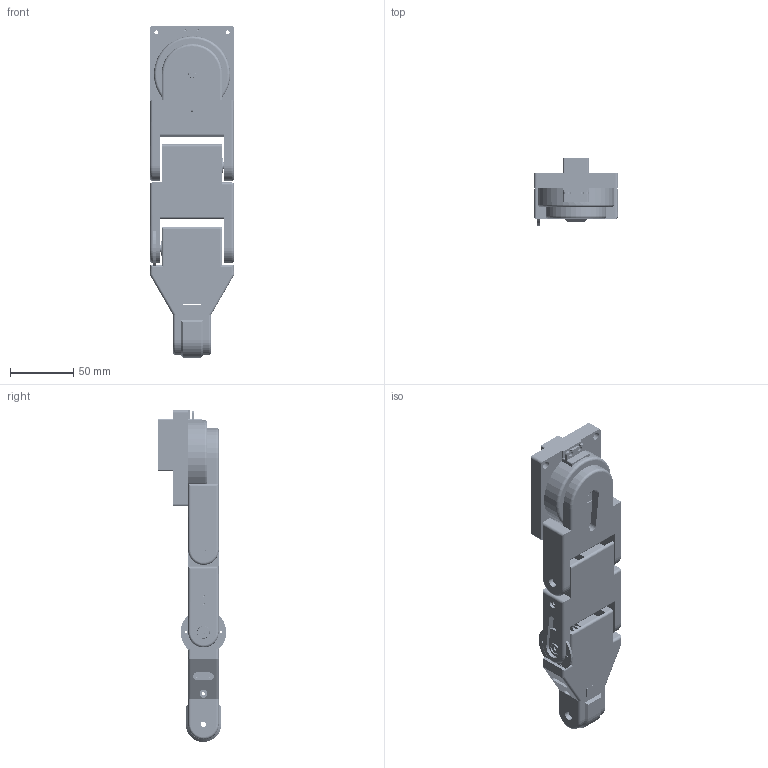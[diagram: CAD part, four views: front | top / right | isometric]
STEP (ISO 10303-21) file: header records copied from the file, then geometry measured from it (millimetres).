
FILE_DESCRIPTION(/* description */ (''),/* implementation_level */ '2;1');
FILE_NAME(/* name */ 'QuadrupedalLeg_V2.step',/* time_stamp */ '2024-08-31T16:09:27+09:00',/* author */ (''),/* organization */ (''),/* preprocessor_version */ 'ST-DEVELOPER v20',/* originating_system */ 'Autodesk Translation Framework v13.14.0.145',/* authorisation */ '');
FILE_SCHEMA (('AUTOMOTIVE_DESIGN { 1 0 10303 214 3 1 1 }'));
Products named in the file (19): QuadrupedalLeg V2; ToesCover; Toes; ToesJoint; ServoMoter-MG996R; MG996R; HornC; UnderLeg; ServoMoter-MG996R_1; MG996R_1; UpperLeg; ServoHead; ServoMoter-MG996R_2; MG996R_2; Gear; Body; CrotchLeg; LegBase; LegBaseCap
Assembly tree (23 placements, depth 4):
  QuadrupedalLeg V2
    ToesCover
    Toes
    ToesJoint
    ServoMoter-MG996R
      MG996R
        Gear
        Body
        HornC
    UnderLeg
    ServoHead  x2
    ServoMoter-MG996R_1
      MG996R_1
        Gear
        Body
    UpperLeg
    ServoMoter-MG996R_2
      MG996R_2
        Gear
        Body
    CrotchLeg
    LegBase
    LegBaseCap
Bounding box: 66 x 54 x 261.55 mm (x, y, z)
Volume: 306226.9 mm3; surface area: 113158 mm2
Topology: 17 solids, 17 shells, 1805 faces, 5071 edges, 3345 vertices
Faces by surface type: cylinder 1361, plane 329, bspline 74, torus 26, cone 12, sphere 3
Full cylindrical faces by diameter (mm): 1.6 x6, 1.623 x183, 2.074 x101, 2.529 x60, 3.086 x28, 3.2 x13, 3.332 x8, 4.109 x2, 4.2 x3, 4.4 x1, 4.5 x1, 5.8 x3, 6 x1, 6.2 x12, 7.2 x3, 8 x1, 10 x6, 12 x3, 13 x3, 26 x1, 36 x1, 60 x1
Entity records: 112044 total; most frequent: CARTESIAN_POINT 75767, ORIENTED_EDGE 8684, DIRECTION 5568, EDGE_CURVE 4342, VERTEX_POINT 2871, B_SPLINE_CURVE_WITH_KNOTS 2247, AXIS2_PLACEMENT_3D 1955, EDGE_LOOP 1661
